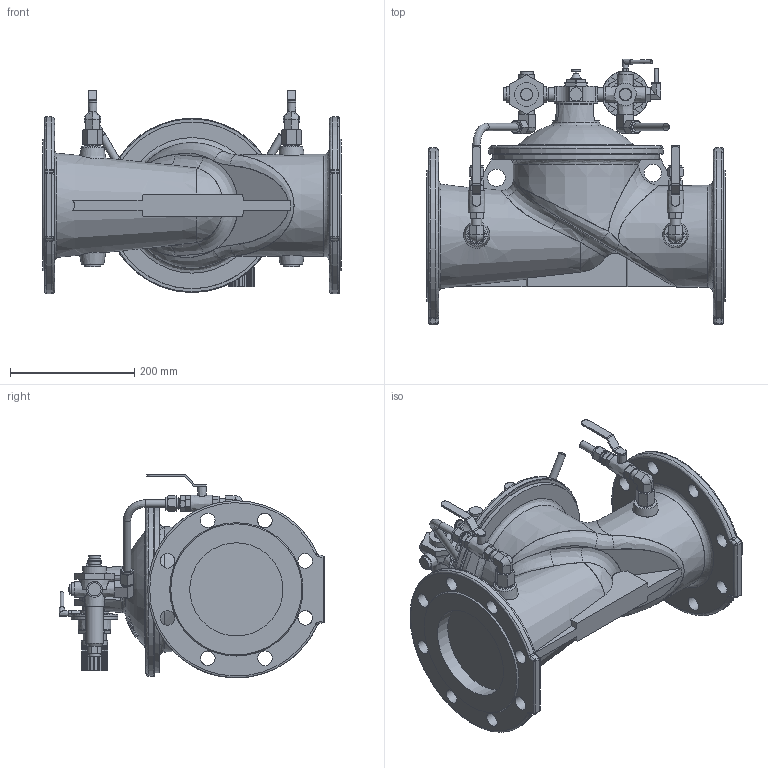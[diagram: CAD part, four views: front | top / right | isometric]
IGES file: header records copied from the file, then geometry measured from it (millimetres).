
Start section: SolidWorks IGES file using analytic representation for surfaces
Global section: file name: \\avksan2\techshare\PBM outline export from Enovia\O_859_00_DN150_1XXXX00_REV03.igs; native system: SolidWorks 2019; preprocessor: SolidWorks 2019; author: pbm; date: 201015.094254; units: millimetre
Bounding box: 480 x 427.7 x 327.79 mm (x, y, z)
Surface area: 784308 mm2 (no closed solid volume)
Topology: 0 solids, 0 shells, 906 faces, 4350 edges, 4212 vertices
Faces by surface type: bspline 572, revolution 334
